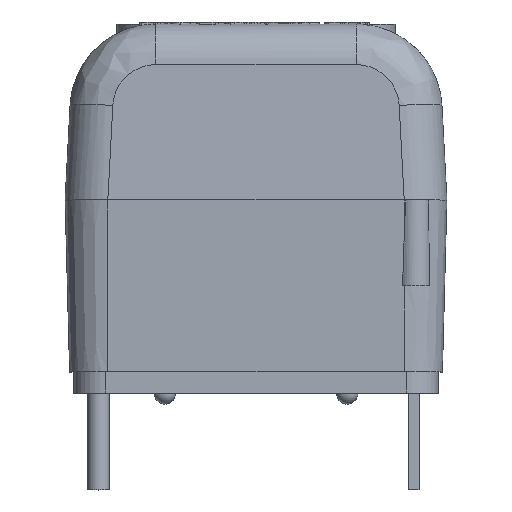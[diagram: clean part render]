
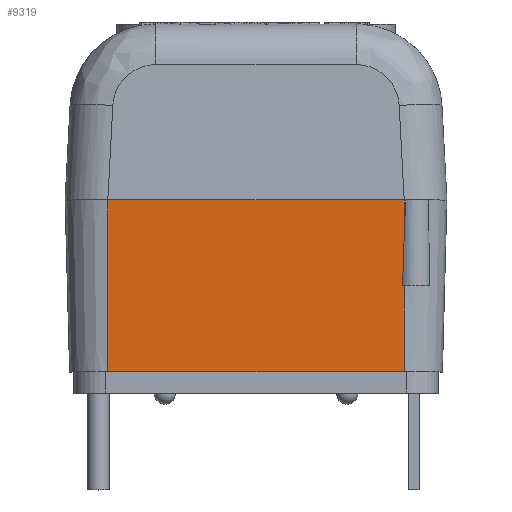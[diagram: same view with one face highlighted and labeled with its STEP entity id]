
A CAD part, top view. The second image highlights one B-rep face of the part: STEP entity #9319.
In plain terms, the highlighted planar face has unit normal (0, -0.026, 1).
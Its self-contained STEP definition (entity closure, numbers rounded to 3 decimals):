
#50=ELLIPSE('',#9943,28.651,0.75);
#1214=LINE('',#16418,#2033);
#1253=LINE('',#16609,#2072);
#1263=LINE('',#16635,#2082);
#1267=LINE('',#16644,#2086);
#1280=LINE('',#16685,#2099);
#1281=LINE('',#16688,#2100);
#2033=VECTOR('',#11715,10.);
#2072=VECTOR('',#11848,10.);
#2082=VECTOR('',#11882,10.);
#2086=VECTOR('',#11894,10.);
#2099=VECTOR('',#11937,10.);
#2100=VECTOR('',#11940,10.);
#2610=FACE_OUTER_BOUND('',#3090,.T.);
#3090=EDGE_LOOP('',(#7925,#7926,#7927,#7928,#7929,#7930,#7931));
#4156=VERTEX_POINT('',#16415);
#4157=VERTEX_POINT('',#16417);
#4198=VERTEX_POINT('',#16594);
#4204=VERTEX_POINT('',#16608);
#4208=VERTEX_POINT('',#16633);
#4218=VERTEX_POINT('',#16680);
#4219=VERTEX_POINT('',#16687);
#5416=EDGE_CURVE('',#4156,#4157,#1214,.T.);
#5489=EDGE_CURVE('',#4204,#4198,#1253,.T.);
#5507=EDGE_CURVE('',#4208,#4198,#1263,.T.);
#5512=EDGE_CURVE('',#4208,#4157,#1267,.T.);
#5531=EDGE_CURVE('',#4204,#4218,#1280,.T.);
#5532=EDGE_CURVE('',#4156,#4219,#1281,.T.);
#5533=EDGE_CURVE('',#4219,#4218,#50,.T.);
#7925=ORIENTED_EDGE('',*,*,#5532,.T.);
#7926=ORIENTED_EDGE('',*,*,#5533,.T.);
#7927=ORIENTED_EDGE('',*,*,#5531,.F.);
#7928=ORIENTED_EDGE('',*,*,#5489,.T.);
#7929=ORIENTED_EDGE('',*,*,#5507,.F.);
#7930=ORIENTED_EDGE('',*,*,#5512,.T.);
#7931=ORIENTED_EDGE('',*,*,#5416,.F.);
#8391=PLANE('',#9942);
#9319=ADVANCED_FACE('',(#2610),#8391,.T.);
#9942=AXIS2_PLACEMENT_3D('',#16686,#11938,#11939);
#9943=AXIS2_PLACEMENT_3D('',#16689,#11941,#11942);
#11715=DIRECTION('',(0.,-1.,-0.026));
#11848=DIRECTION('',(-1.,0.,0.));
#11882=DIRECTION('',(0.,1.,0.026));
#11894=DIRECTION('',(1.,0.,0.));
#11937=DIRECTION('',(0.,-1.,-0.026));
#11938=DIRECTION('center_axis',(0.,-0.026,
1.));
#11939=DIRECTION('ref_axis',(0.,-1.,-0.026));
#11940=DIRECTION('',(-1.,0.,0.));
#11941=DIRECTION('center_axis',(0.,0.026,
-1.));
#11942=DIRECTION('ref_axis',(0.,-1.,-0.026));
#16415=CARTESIAN_POINT('',(6.9,5.,6.795));
#16417=CARTESIAN_POINT('',(6.9,1.,6.691));
#16418=CARTESIAN_POINT('',(6.9,6.751,6.841));
#16594=CARTESIAN_POINT('',(-6.9,9.,6.9));
#16608=CARTESIAN_POINT('',(6.9,9.,6.9));
#16609=CARTESIAN_POINT('',(-8.9,9.,6.9));
#16633=CARTESIAN_POINT('',(-6.9,1.,6.691));
#16635=CARTESIAN_POINT('',(-6.9,2.252,6.723));
#16644=CARTESIAN_POINT('',(0.,1.,6.691));
#16680=CARTESIAN_POINT('',(6.9,7.091,6.85));
#16685=CARTESIAN_POINT('',(6.9,6.751,6.841));
#16686=CARTESIAN_POINT('Origin',(0.,4.502,
6.782));
#16687=CARTESIAN_POINT('',(6.835,5.,6.795));
#16688=CARTESIAN_POINT('',(3.675,5.,6.795));
#16689=CARTESIAN_POINT('Origin',(7.35,-15.822,6.25));
